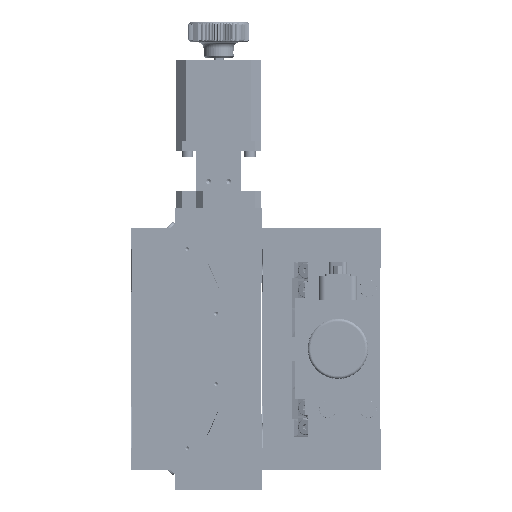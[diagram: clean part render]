
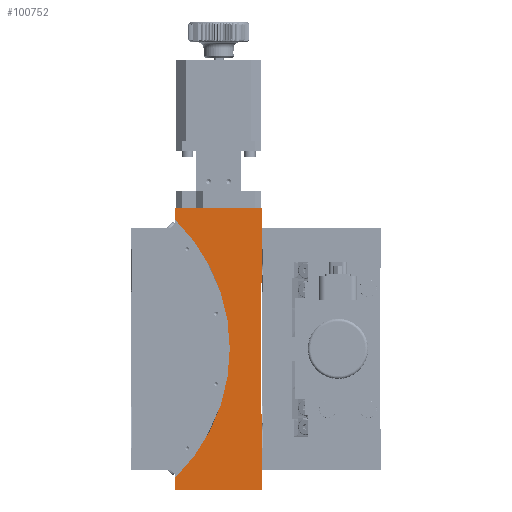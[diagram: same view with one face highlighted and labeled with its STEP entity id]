
A CAD part, left-side view. The second image highlights one B-rep face of the part: STEP entity #100752.
In plain terms, the highlighted planar face has unit normal (-1, 0, 0) as drawn and (0, 0, -1) by its records, which use the part's own axes.
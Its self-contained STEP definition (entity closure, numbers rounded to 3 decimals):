
#93 = ORIENTED_EDGE ( 'NONE', *, *, #226739, .F. ) ;
#1073 = CARTESIAN_POINT ( 'NONE',  ( 133.851, 43., 0. ) ) ;
#4422 = LINE ( 'NONE', #117307, #126267 ) ;
#12816 = VERTEX_POINT ( 'NONE', #185708 ) ;
#12849 = ORIENTED_EDGE ( 'NONE', *, *, #190311, .F. ) ;
#15095 = VECTOR ( 'NONE', #155135, 1000. ) ;
#16974 = VERTEX_POINT ( 'NONE', #235766 ) ;
#19445 = ORIENTED_EDGE ( 'NONE', *, *, #184447, .F. ) ;
#20140 = PLANE ( 'NONE',  #135260 ) ;
#20435 = VECTOR ( 'NONE', #65013, 1000. ) ;
#20659 = DIRECTION ( 'NONE',  ( 0., 0., 1. ) ) ;
#25446 = VECTOR ( 'NONE', #107083, 1000. ) ;
#25793 = EDGE_CURVE ( 'NONE', #12816, #16974, #91621, .T. ) ;
#30905 = ORIENTED_EDGE ( 'NONE', *, *, #76142, .F. ) ;
#32983 = ORIENTED_EDGE ( 'NONE', *, *, #109241, .T. ) ;
#37281 = DIRECTION ( 'NONE',  ( 1., 0., 0. ) ) ;
#39494 = DIRECTION ( 'NONE',  ( 0., -1., 0. ) ) ;
#42269 = CARTESIAN_POINT ( 'NONE',  ( 0., 0., 0. ) ) ;
#42839 = DIRECTION ( 'NONE',  ( 1., 0., 0. ) ) ;
#43188 = LINE ( 'NONE', #139489, #109555 ) ;
#43453 = LINE ( 'NONE', #220918, #20435 ) ;
#44458 = CARTESIAN_POINT ( 'NONE',  ( 140., 0., 0. ) ) ;
#46281 = VECTOR ( 'NONE', #201262, 1000. ) ;
#52161 = VERTEX_POINT ( 'NONE', #152811 ) ;
#56472 = ORIENTED_EDGE ( 'NONE', *, *, #244474, .T. ) ;
#57961 = CARTESIAN_POINT ( 'NONE',  ( 140., 0., 0. ) ) ;
#61176 = DIRECTION ( 'NONE',  ( 1., 0., 0. ) ) ;
#63335 = VECTOR ( 'NONE', #172684, 1000. ) ;
#65013 = DIRECTION ( 'NONE',  ( 1., 0., 0. ) ) ;
#75700 = LINE ( 'NONE', #57961, #189872 ) ;
#76142 = EDGE_CURVE ( 'NONE', #230337, #142924, #211545, .T. ) ;
#79066 = LINE ( 'NONE', #42269, #119642 ) ;
#82106 = CARTESIAN_POINT ( 'NONE',  ( 0., 0.5, 0. ) ) ;
#86133 = CARTESIAN_POINT ( 'NONE',  ( 37.5, 0.5, 0. ) ) ;
#91621 = LINE ( 'NONE', #153660, #63335 ) ;
#94393 = VERTEX_POINT ( 'NONE', #44458 ) ;
#100734 = ORIENTED_EDGE ( 'NONE', *, *, #25793, .F. ) ;
#100752 = ADVANCED_FACE ( 'NONE', ( #155730 ), #20140, .F. ) ;
#107083 = DIRECTION ( 'NONE',  ( 0., 1., 0. ) ) ;
#108760 = VERTEX_POINT ( 'NONE', #166920 ) ;
#109241 = EDGE_CURVE ( 'NONE', #241838, #219058, #234964, .T. ) ;
#109555 = VECTOR ( 'NONE', #39494, 1000. ) ;
#117307 = CARTESIAN_POINT ( 'NONE',  ( 102.5, 0.5, 0. ) ) ;
#119642 = VECTOR ( 'NONE', #37281, 1000. ) ;
#120347 = EDGE_CURVE ( 'NONE', #12816, #108760, #162887, .T. ) ;
#121003 = DIRECTION ( 'NONE',  ( 0., -1., 0. ) ) ;
#123624 = CARTESIAN_POINT ( 'NONE',  ( 0., 0., 0. ) ) ;
#126267 = VECTOR ( 'NONE', #121003, 1000. ) ;
#132265 = CIRCLE ( 'NONE', #197097, 89. ) ;
#132294 = CARTESIAN_POINT ( 'NONE',  ( 102.5, 0.5, 0. ) ) ;
#134768 = ORIENTED_EDGE ( 'NONE', *, *, #155457, .T. ) ;
#134951 = VERTEX_POINT ( 'NONE', #153596 ) ;
#135260 = AXIS2_PLACEMENT_3D ( 'NONE', #137905, #235543, #42839 ) ;
#137905 = CARTESIAN_POINT ( 'NONE',  ( 0., 0., 0. ) ) ;
#139489 = CARTESIAN_POINT ( 'NONE',  ( 37.5, 0.5, 0. ) ) ;
#142924 = VERTEX_POINT ( 'NONE', #132294 ) ;
#149232 = DIRECTION ( 'NONE',  ( 0., 1., 0. ) ) ;
#152811 = CARTESIAN_POINT ( 'NONE',  ( 6.149, 43., 0. ) ) ;
#153596 = CARTESIAN_POINT ( 'NONE',  ( 102.5, 0., 0. ) ) ;
#153660 = CARTESIAN_POINT ( 'NONE',  ( 0., 0., 0. ) ) ;
#155135 = DIRECTION ( 'NONE',  ( 1., 0., 0. ) ) ;
#155457 = EDGE_CURVE ( 'NONE', #230337, #16974, #43188, .T. ) ;
#155730 = FACE_OUTER_BOUND ( 'NONE', #179013, .T. ) ;
#162887 = LINE ( 'NONE', #123624, #25446 ) ;
#166920 = CARTESIAN_POINT ( 'NONE',  ( 0., 43., 0. ) ) ;
#170721 = ORIENTED_EDGE ( 'NONE', *, *, #171666, .T. ) ;
#171666 = EDGE_CURVE ( 'NONE', #52161, #241838, #132265, .T. ) ;
#172684 = DIRECTION ( 'NONE',  ( 1., 0., 0. ) ) ;
#178114 = CARTESIAN_POINT ( 'NONE',  ( 140., 43., 0. ) ) ;
#179013 = EDGE_LOOP ( 'NONE', ( #93, #12849, #30905, #134768, #100734, #245604, #56472, #170721, #32983, #19445 ) ) ;
#184447 = EDGE_CURVE ( 'NONE', #94393, #219058, #75700, .T. ) ;
#185708 = CARTESIAN_POINT ( 'NONE',  ( 0., 0., 0. ) ) ;
#189872 = VECTOR ( 'NONE', #149232, 1000. ) ;
#190311 = EDGE_CURVE ( 'NONE', #142924, #134951, #4422, .T. ) ;
#197097 = AXIS2_PLACEMENT_3D ( 'NONE', #212108, #20659, #61176 ) ;
#201262 = DIRECTION ( 'NONE',  ( 1., 0., 0. ) ) ;
#211545 = LINE ( 'NONE', #82106, #46281 ) ;
#212108 = CARTESIAN_POINT ( 'NONE',  ( 70., 105., 0. ) ) ;
#219058 = VERTEX_POINT ( 'NONE', #178114 ) ;
#220918 = CARTESIAN_POINT ( 'NONE',  ( 0., 43., 0. ) ) ;
#226739 = EDGE_CURVE ( 'NONE', #134951, #94393, #79066, .T. ) ;
#230337 = VERTEX_POINT ( 'NONE', #86133 ) ;
#231251 = CARTESIAN_POINT ( 'NONE',  ( 0., 43., 0. ) ) ;
#234964 = LINE ( 'NONE', #231251, #15095 ) ;
#235543 = DIRECTION ( 'NONE',  ( 0., 0., 1. ) ) ;
#235766 = CARTESIAN_POINT ( 'NONE',  ( 37.5, 0., 0. ) ) ;
#241838 = VERTEX_POINT ( 'NONE', #1073 ) ;
#244474 = EDGE_CURVE ( 'NONE', #108760, #52161, #43453, .T. ) ;
#245604 = ORIENTED_EDGE ( 'NONE', *, *, #120347, .T. ) ;
